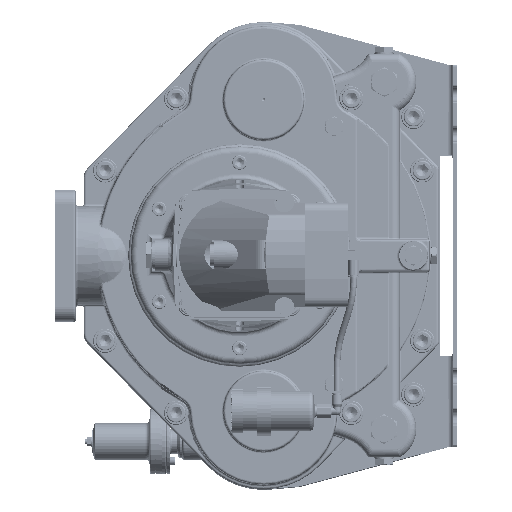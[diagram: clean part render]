
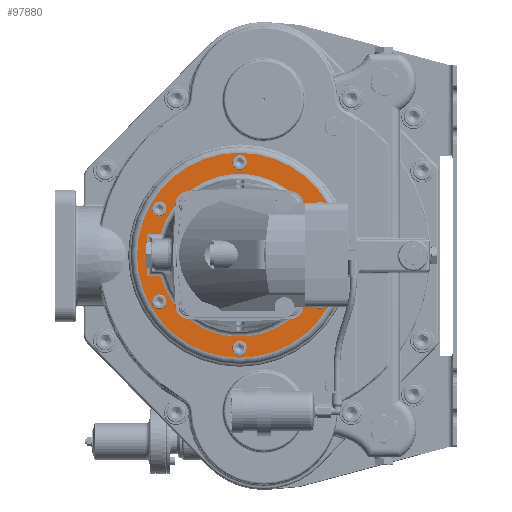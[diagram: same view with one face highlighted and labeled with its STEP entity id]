
A CAD part, top view. The second image highlights one B-rep face of the part: STEP entity #97880.
In plain terms, the highlighted planar face has unit normal (0, 0, 1) as drawn and (0, 1, 0) by its records, which use the part's own axes.
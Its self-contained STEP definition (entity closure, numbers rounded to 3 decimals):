
#3879=FACE_BOUND('',#16421,.T.);
#3880=FACE_BOUND('',#16422,.T.);
#3881=FACE_BOUND('',#16423,.T.);
#3882=FACE_BOUND('',#16424,.T.);
#3883=FACE_BOUND('',#16425,.T.);
#3884=FACE_BOUND('',#16426,.T.);
#3885=FACE_BOUND('',#16427,.T.);
#5760=PLANE('',#106686);
#10406=FACE_OUTER_BOUND('',#16420,.T.);
#16420=EDGE_LOOP('',(#80366));
#16421=EDGE_LOOP('',(#80367));
#16422=EDGE_LOOP('',(#80368));
#16423=EDGE_LOOP('',(#80369));
#16424=EDGE_LOOP('',(#80370));
#16425=EDGE_LOOP('',(#80371));
#16426=EDGE_LOOP('',(#80372));
#16427=EDGE_LOOP('',(#80373,#80374,#80375,#80376));
#23402=CIRCLE('',#106629,6.5);
#23404=CIRCLE('',#106632,6.5);
#23406=CIRCLE('',#106635,6.5);
#23408=CIRCLE('',#106638,6.5);
#23410=CIRCLE('',#106641,6.5);
#23412=CIRCLE('',#106644,6.5);
#23439=CIRCLE('',#106680,127.);
#23444=CIRCLE('',#106687,101.);
#29136=LINE('',#174346,#35552);
#29137=LINE('',#174348,#35553);
#29138=LINE('',#174350,#35554);
#35552=VECTOR('',#126452,10.);
#35553=VECTOR('',#126453,10.);
#35554=VECTOR('',#126454,10.);
#43742=VERTEX_POINT('',#173329);
#43744=VERTEX_POINT('',#173335);
#43746=VERTEX_POINT('',#173341);
#43748=VERTEX_POINT('',#173347);
#43750=VERTEX_POINT('',#173353);
#43752=VERTEX_POINT('',#173359);
#43809=VERTEX_POINT('',#174332);
#43813=VERTEX_POINT('',#174344);
#43814=VERTEX_POINT('',#174345);
#43815=VERTEX_POINT('',#174347);
#43816=VERTEX_POINT('',#174349);
#56314=EDGE_CURVE('',#43742,#43742,#23402,.T.);
#56317=EDGE_CURVE('',#43744,#43744,#23404,.T.);
#56320=EDGE_CURVE('',#43746,#43746,#23406,.T.);
#56323=EDGE_CURVE('',#43748,#43748,#23408,.T.);
#56326=EDGE_CURVE('',#43750,#43750,#23410,.T.);
#56329=EDGE_CURVE('',#43752,#43752,#23412,.T.);
#56400=EDGE_CURVE('',#43809,#43809,#23439,.T.);
#56406=EDGE_CURVE('',#43813,#43814,#29136,.T.);
#56407=EDGE_CURVE('',#43815,#43813,#29137,.T.);
#56408=EDGE_CURVE('',#43816,#43815,#29138,.T.);
#56409=EDGE_CURVE('',#43814,#43816,#23444,.T.);
#80366=ORIENTED_EDGE('',*,*,#56400,.F.);
#80367=ORIENTED_EDGE('',*,*,#56314,.T.);
#80368=ORIENTED_EDGE('',*,*,#56317,.T.);
#80369=ORIENTED_EDGE('',*,*,#56320,.T.);
#80370=ORIENTED_EDGE('',*,*,#56323,.T.);
#80371=ORIENTED_EDGE('',*,*,#56326,.T.);
#80372=ORIENTED_EDGE('',*,*,#56329,.T.);
#80373=ORIENTED_EDGE('',*,*,#56406,.F.);
#80374=ORIENTED_EDGE('',*,*,#56407,.F.);
#80375=ORIENTED_EDGE('',*,*,#56408,.F.);
#80376=ORIENTED_EDGE('',*,*,#56409,.F.);
#97880=ADVANCED_FACE('',(#10406,#3879,#3880,#3881,#3882,#3883,#3884,#3885),
#5760,.F.);
#106629=AXIS2_PLACEMENT_3D('',#173331,#126316,#126317);
#106632=AXIS2_PLACEMENT_3D('',#173337,#126323,#126324);
#106635=AXIS2_PLACEMENT_3D('',#173343,#126330,#126331);
#106638=AXIS2_PLACEMENT_3D('',#173349,#126337,#126338);
#106641=AXIS2_PLACEMENT_3D('',#173355,#126344,#126345);
#106644=AXIS2_PLACEMENT_3D('',#173361,#126351,#126352);
#106680=AXIS2_PLACEMENT_3D('',#174333,#126437,#126438);
#106686=AXIS2_PLACEMENT_3D('',#174343,#126450,#126451);
#106687=AXIS2_PLACEMENT_3D('',#174351,#126455,#126456);
#126316=DIRECTION('center_axis',(0.,-1.,0.));
#126317=DIRECTION('ref_axis',(1.,0.,0.));
#126323=DIRECTION('center_axis',(0.,-1.,0.));
#126324=DIRECTION('ref_axis',(1.,0.,0.));
#126330=DIRECTION('center_axis',(0.,-1.,0.));
#126331=DIRECTION('ref_axis',(1.,0.,0.));
#126337=DIRECTION('center_axis',(0.,-1.,0.));
#126338=DIRECTION('ref_axis',(1.,0.,0.));
#126344=DIRECTION('center_axis',(0.,-1.,0.));
#126345=DIRECTION('ref_axis',(1.,0.,0.));
#126351=DIRECTION('center_axis',(0.,-1.,0.));
#126352=DIRECTION('ref_axis',(1.,0.,0.));
#126437=DIRECTION('center_axis',(0.,-1.,0.));
#126438=DIRECTION('ref_axis',(-1.,0.,0.));
#126450=DIRECTION('center_axis',(0.,-1.,0.));
#126451=DIRECTION('ref_axis',(0.,0.,-1.));
#126452=DIRECTION('',(0.,0.,1.));
#126453=DIRECTION('',(-1.,0.,0.));
#126454=DIRECTION('',(0.,0.,-1.));
#126455=DIRECTION('center_axis',(0.,1.,0.));
#126456=DIRECTION('ref_axis',(0.,0.,1.));
#173329=CARTESIAN_POINT('',(108.5,20.,0.));
#173331=CARTESIAN_POINT('Origin',(115.,20.,0.));
#173335=CARTESIAN_POINT('',(-64.,20.,99.593));
#173337=CARTESIAN_POINT('Origin',(-57.5,20.,99.593));
#173341=CARTESIAN_POINT('',(51.,20.,-99.593));
#173343=CARTESIAN_POINT('Origin',(57.5,20.,-99.593));
#173347=CARTESIAN_POINT('',(-64.,20.,-99.593));
#173349=CARTESIAN_POINT('Origin',(-57.5,20.,-99.593));
#173353=CARTESIAN_POINT('',(51.,20.,99.593));
#173355=CARTESIAN_POINT('Origin',(57.5,20.,99.593));
#173359=CARTESIAN_POINT('',(-121.5,20.,0.));
#173361=CARTESIAN_POINT('Origin',(-115.,20.,0.));
#174332=CARTESIAN_POINT('',(0.,20.,-127.));
#174333=CARTESIAN_POINT('Origin',(0.,20.,0.));
#174343=CARTESIAN_POINT('Origin',(0.,20.,0.));
#174344=CARTESIAN_POINT('',(-26.,20.,-114.));
#174345=CARTESIAN_POINT('',(-26.,20.,-97.596));
#174346=CARTESIAN_POINT('',(-26.,20.,-54.));
#174347=CARTESIAN_POINT('',(26.,20.,-114.));
#174348=CARTESIAN_POINT('',(0.,20.,-114.));
#174349=CARTESIAN_POINT('',(26.,20.,-97.596));
#174350=CARTESIAN_POINT('',(26.,20.,-54.));
#174351=CARTESIAN_POINT('Origin',(0.,20.,0.));
